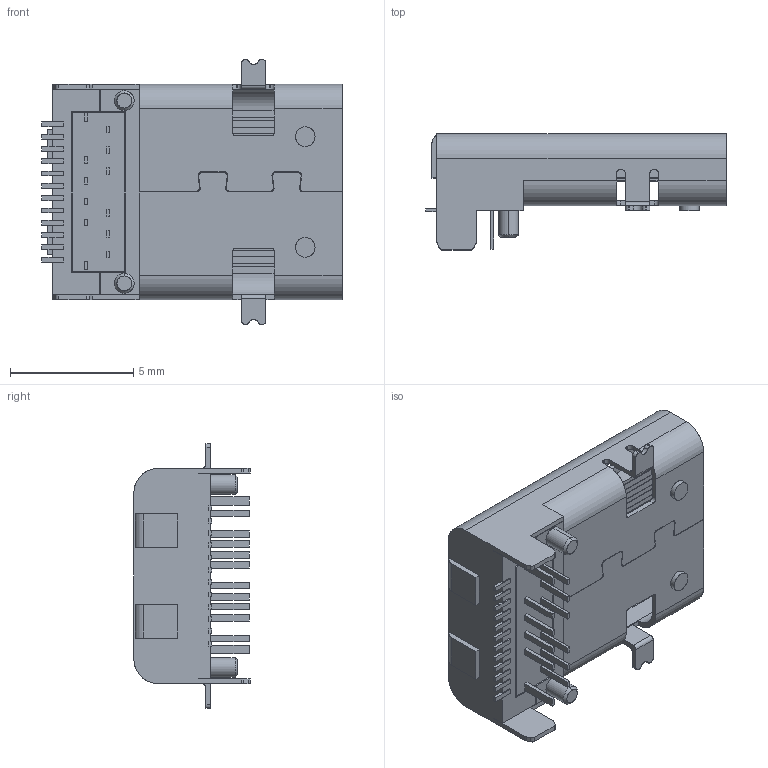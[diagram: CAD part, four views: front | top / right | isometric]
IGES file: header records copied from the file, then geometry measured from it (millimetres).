
Start section: SolidWorks IGES file using analytic representation for surfaces
Bounding box: 12.2 x 4.72 x 10.75 mm (x, y, z)
Surface area: 671.8 mm2 (no closed solid volume)
Topology: 0 solids, 0 shells, 488 faces, 3403 edges, 3400 vertices
Faces by surface type: bspline 387, revolution 101
